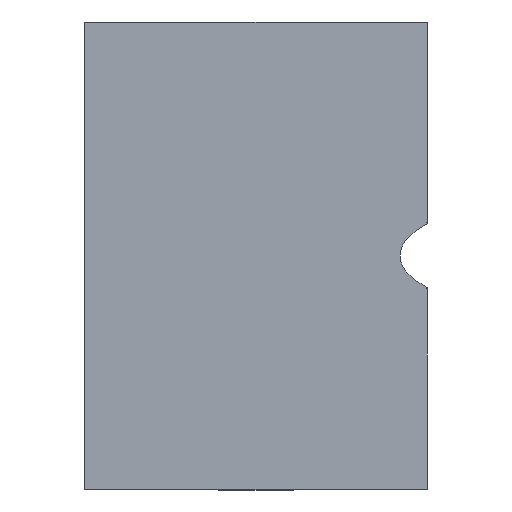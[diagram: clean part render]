
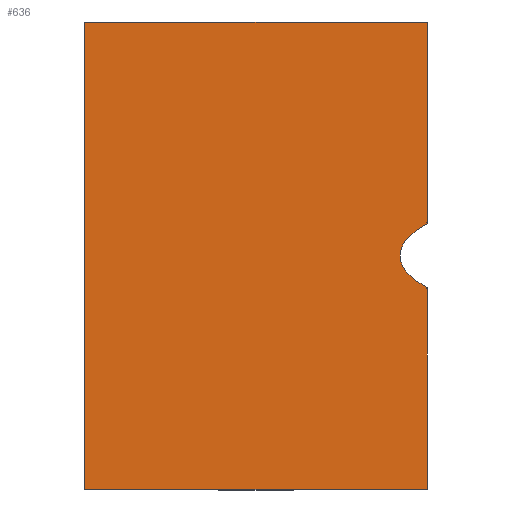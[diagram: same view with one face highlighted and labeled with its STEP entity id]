
A CAD part, top view. The second image highlights one B-rep face of the part: STEP entity #636.
In plain terms, the highlighted planar face has unit normal (0, 0, 1).
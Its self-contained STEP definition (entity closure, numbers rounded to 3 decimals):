
#33=CARTESIAN_POINT('',(22.,-4.116,0.));
#34=CARTESIAN_POINT('',(21.348,-3.773,0.));
#35=CARTESIAN_POINT('',(20.289,-3.087,0.));
#36=CARTESIAN_POINT('',(18.888,-1.715,0.));
#37=CARTESIAN_POINT('',(18.247,0.,0.));
#38=CARTESIAN_POINT('',(18.888,1.715,0.));
#39=CARTESIAN_POINT('',(20.289,3.087,0.));
#40=CARTESIAN_POINT('',(21.348,3.773,0.));
#41=CARTESIAN_POINT('',(22.,4.116,0.));
#43=DIRECTION('',(-1.,0.,0.));
#44=VECTOR('',#43,44.);
#45=CARTESIAN_POINT('',(22.,-30.,0.));
#46=LINE('',#45,#44);
#47=DIRECTION('',(1.,0.,0.));
#48=VECTOR('',#47,44.);
#49=CARTESIAN_POINT('',(-22.,30.,0.));
#50=LINE('',#49,#48);
#98=DIRECTION('',(0.,1.,0.));
#99=VECTOR('',#98,25.884);
#100=CARTESIAN_POINT('',(22.,4.116,0.));
#101=LINE('',#100,#99);
#102=DIRECTION('',(0.,1.,0.));
#103=VECTOR('',#102,25.884);
#104=CARTESIAN_POINT('',(22.,-30.,0.));
#105=LINE('',#104,#103);
#220=DIRECTION('',(0.,1.,0.));
#221=VECTOR('',#220,60.);
#222=CARTESIAN_POINT('',(-22.,-30.,0.));
#223=LINE('',#222,#221);
#475=CARTESIAN_POINT('',(22.,-30.,0.));
#477=VERTEX_POINT('',#475);
#479=CARTESIAN_POINT('',(22.,30.,0.));
#481=VERTEX_POINT('',#479);
#503=CARTESIAN_POINT('',(-22.,-30.,0.));
#505=VERTEX_POINT('',#503);
#507=CARTESIAN_POINT('',(-22.,30.,0.));
#509=VERTEX_POINT('',#507);
#545=VERTEX_POINT('',#33);
#546=VERTEX_POINT('',#41);
#619=CARTESIAN_POINT('',(0.,-30.,0.));
#620=DIRECTION('',(0.,0.,1.));
#621=DIRECTION('',(1.,0.,0.));
#622=AXIS2_PLACEMENT_3D('',#619,#620,#621);
#623=PLANE('',#622);
#625=ORIENTED_EDGE('',*,*,#624,.F.);
#627=ORIENTED_EDGE('',*,*,#626,.F.);
#628=ORIENTED_EDGE('',*,*,#582,.T.);
#630=ORIENTED_EDGE('',*,*,#629,.T.);
#631=ORIENTED_EDGE('',*,*,#609,.T.);
#633=ORIENTED_EDGE('',*,*,#632,.F.);
#634=EDGE_LOOP('',(#625,#627,#628,#630,#631,#633));
#635=FACE_OUTER_BOUND('',#634,.F.);
#636=ADVANCED_FACE('',(#635),#623,.T.);
#42=B_SPLINE_CURVE_WITH_KNOTS('',3,(#33,#34,#35,#36,#37,#38,#39,#40,#41),
.UNSPECIFIED.,.F.,.F.,(4,1,1,1,1,1,4),(0.,0.125,0.25,0.5,0.75,0.875,
1.),.UNSPECIFIED.);
#582=EDGE_CURVE('',#477,#505,#46,.T.);
#609=EDGE_CURVE('',#509,#481,#50,.T.);
#624=EDGE_CURVE('',#545,#546,#42,.T.);
#626=EDGE_CURVE('',#477,#545,#105,.T.);
#629=EDGE_CURVE('',#505,#509,#223,.T.);
#632=EDGE_CURVE('',#546,#481,#101,.T.);
